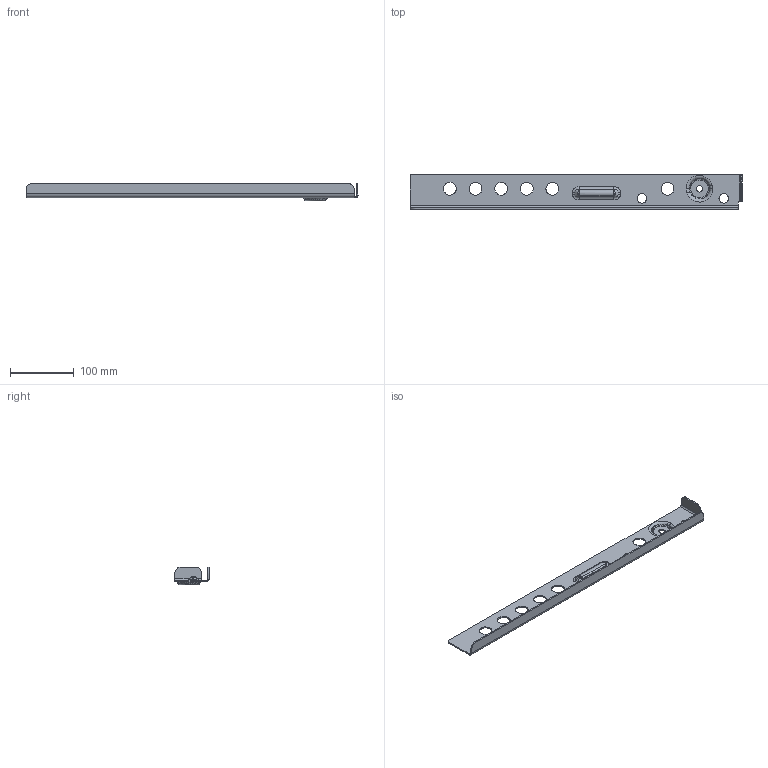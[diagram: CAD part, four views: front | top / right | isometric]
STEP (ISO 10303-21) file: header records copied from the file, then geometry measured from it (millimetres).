
FILE_DESCRIPTION(('CATIA V5 STEP Exchange'),'2;1');
FILE_NAME('E:\吉利商用车G3\3D\新开件\lyl\SHT0015322.stp','2023-01-29T12:55:00+00:00',('none'),('none'),'CATIA Version 5 Release 20 GA (IN-10)','CATIA V5 STEP AP214','none');
FILE_SCHEMA(('AUTOMOTIVE_DESIGN { 1 0 10303 214 1 1 1 1 }'));
Length unit declared in the file: millimetre
Products named in the file (1): G3副司机座椅底支架右下板
Bounding box: 519 x 54 x 27.7 mm (x, y, z)
Volume: 72680.8 mm3; surface area: 76071 mm2
Topology: 1 solids, 1 shells, 118 faces, 301 edges, 177 vertices
Faces by surface type: cylinder 54, plane 22, torus 16, sphere 12, bspline 8, cone 6
Entity records: 9581 total; most frequent: CARTESIAN_POINT 7019, ORIENTED_EDGE 578, DIRECTION 397, EDGE_CURVE 289, AXIS2_PLACEMENT_3D 191, VERTEX_POINT 177, EDGE_LOOP 140, ADVANCED_FACE 118
